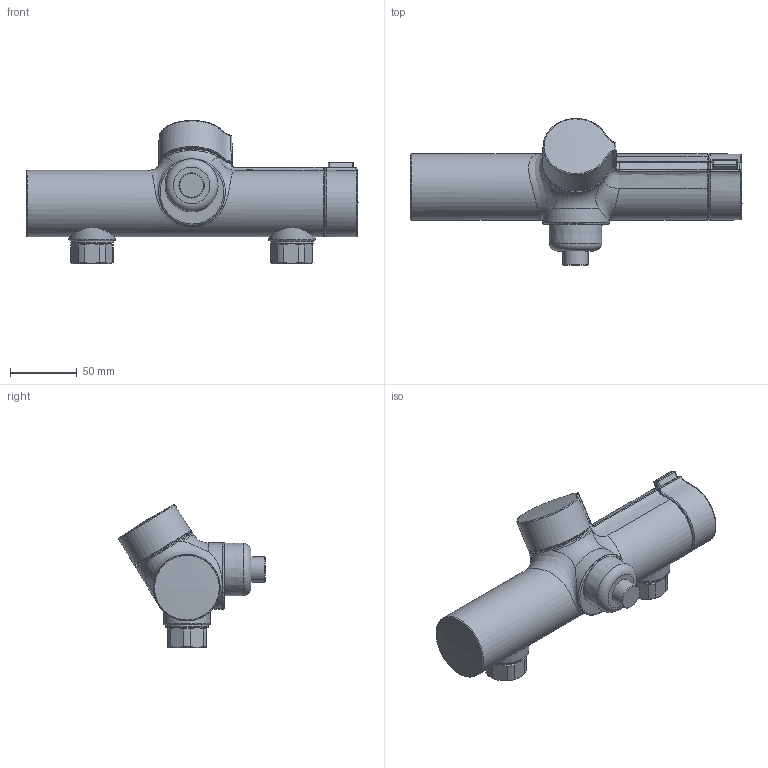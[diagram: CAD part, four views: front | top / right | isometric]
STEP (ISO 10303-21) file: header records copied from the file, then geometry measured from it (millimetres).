
FILE_DESCRIPTION (( 'STEP AP203' ), '1' );
FILE_NAME ('7268+7264.STEP', '2017-03-09T06:00:07', ( '' ), ( '' ), 'SwSTEP 2.0', 'SolidWorks 2016', '' );
FILE_SCHEMA (( 'CONFIG_CONTROL_DESIGN' ));
Length unit declared in the file: millimetre
Products named in the file (1): 7268+7264
Bounding box: 249.55 x 110.43 x 107.64 mm (x, y, z)
Volume: 638955 mm3; surface area: 64380.5 mm2
Topology: 1 solids, 1 shells, 182 faces, 425 edges, 264 vertices
Faces by surface type: bspline 44, plane 42, cylinder 41, cone 28, sphere 17, torus 10
Full cylindrical faces by diameter (mm): 18.97 x1, 24 x2, 24.894 x3, 26 x2, 32 x2, 35 x2, 45.131 x1, 45.987 x1, 49.99 x1, 50 x1
Entity records: 17914 total; most frequent: CARTESIAN_POINT 14340, ORIENTED_EDGE 748, DIRECTION 618, EDGE_CURVE 374, AXIS2_PLACEMENT_3D 283, VERTEX_POINT 245, EDGE_LOOP 233, FACE_OUTER_BOUND 206
